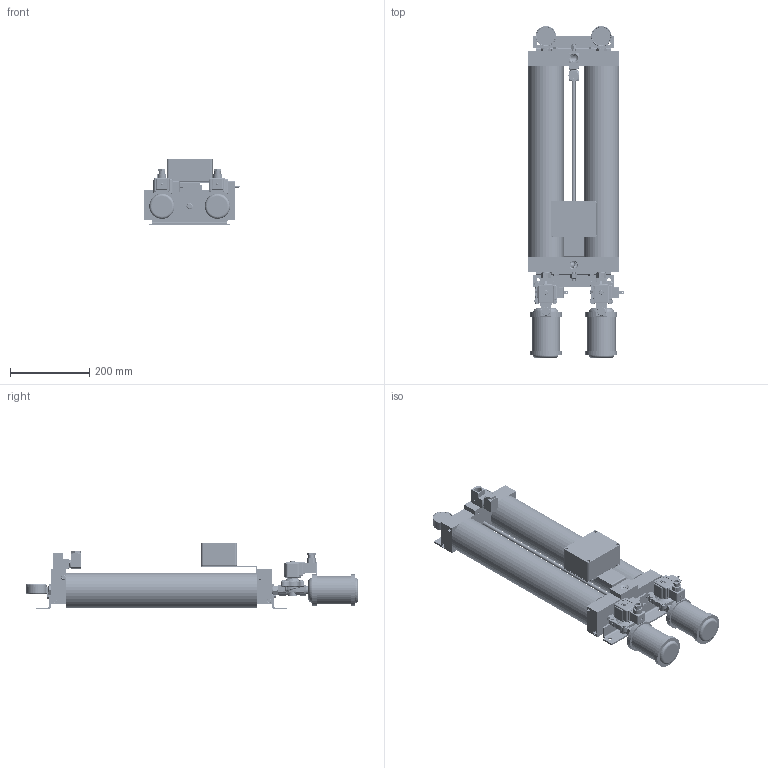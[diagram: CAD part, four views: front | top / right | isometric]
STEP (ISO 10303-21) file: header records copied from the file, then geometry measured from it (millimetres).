
FILE_DESCRIPTION (( 'STEP AP214' ), '1' );
FILE_NAME ('HR5-XX-XXXX.STEP', '2020-09-15T18:24:45', ( '' ), ( '' ), 'SwSTEP 2.0', 'SolidWorks 2017', '' );
FILE_SCHEMA (( 'AUTOMOTIVE_DESIGN' ));
Length unit declared in the file: inch
Products named in the file (1): HR5-XX-XXXX
Bounding box: 240.54 x 835.39 x 168.38 mm (x, y, z)
Volume: 4540439.6 mm3; surface area: 1363539.5 mm2
Topology: 69 solids, 69 shells, 7350 faces, 18592 edges, 11689 vertices
Faces by surface type: cylinder 2744, plane 2592, cone 1575, bspline 241, torus 172, sphere 26
Entity records: 384518 total; most frequent: CARTESIAN_POINT 116849, ORIENTED_EDGE 37054, DIRECTION 34541, EDGE_CURVE 18527, AXIS2_PLACEMENT_3D 12451, VERTEX_POINT 11686, LINE 9639, VECTOR 9639
